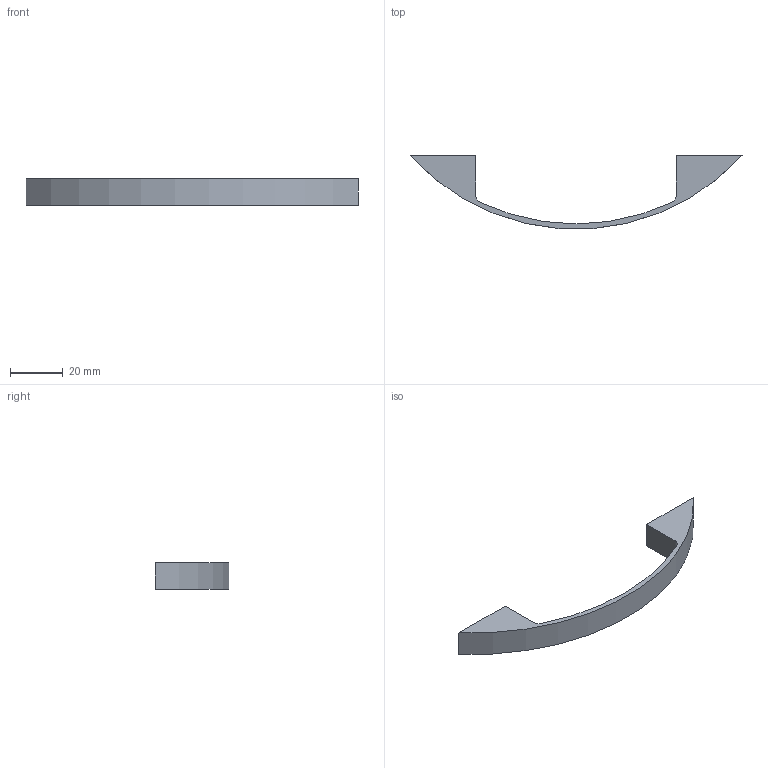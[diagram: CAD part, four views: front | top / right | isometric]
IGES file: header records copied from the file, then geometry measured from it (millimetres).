
Start section: Data from Parasolid IGES Translator 15.0.47, Copyright(c) 2006 Siemens P LM Software. All Rights Reserved.
Global section: file name: 115203.igs; native system:  By UGS Corp.; preprocessor: XPlus GENERIC/IGES 3.0; author: Noname; organization: Noname; date: 20140122.144950; units: millimetre
Bounding box: 126 x 27.75 x 10 mm (x, y, z)
Surface area: 4621.6 mm2 (no closed solid volume)
Topology: 0 solids, 0 shells, 14 faces, 60 edges, 58 vertices
Faces by surface type: extrusion 8, revolution 6
